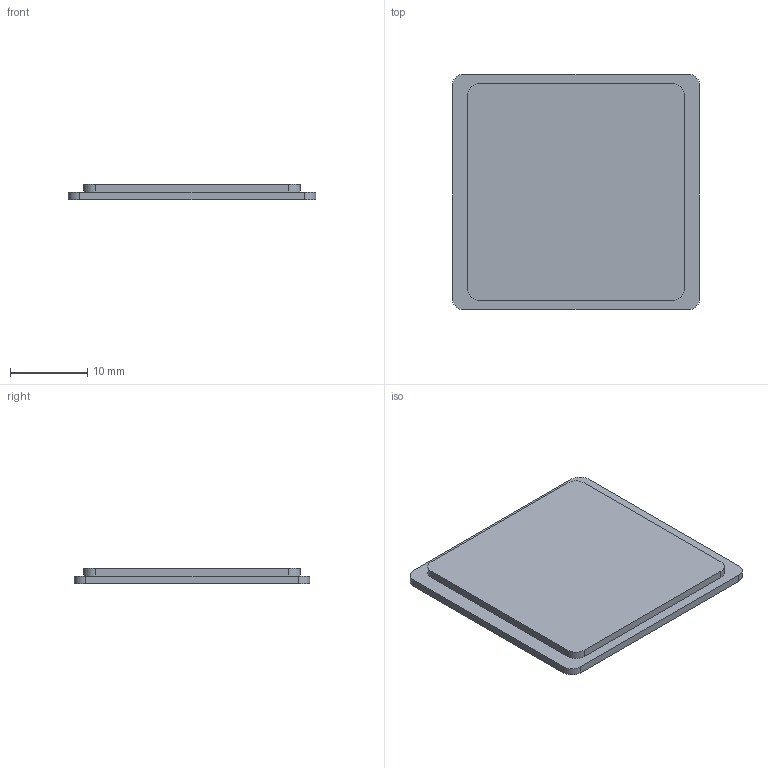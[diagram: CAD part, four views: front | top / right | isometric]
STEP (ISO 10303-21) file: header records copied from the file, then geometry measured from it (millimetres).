
FILE_DESCRIPTION(('FreeCAD Model'),'2;1');
FILE_NAME('/home/malte/3d/freecad/solarpocketlight/cellWindow3.step', '2018-09-22T13:31:40',('Author'),(''), 'Open CASCADE STEP processor 7.2','FreeCAD','Unknown');
FILE_SCHEMA(('AUTOMOTIVE_DESIGN_CC2 { 1 2 10303 214 -1 1 5 4 }'));
Length unit declared in the file: millimetre
Products named in the file (1): Body
Bounding box: 32 x 30.5 x 2 mm (x, y, z)
Volume: 1756.1 mm3; surface area: 2180 mm2
Topology: 1 solids, 1 shells, 19 faces, 48 edges, 32 vertices
Faces by surface type: plane 11, cylinder 8
Entity records: 1271 total; most frequent: CARTESIAN_POINT 292, DIRECTION 184, LINE 112, VECTOR 112, ORIENTED_EDGE 96, PCURVE 96, DEFINITIONAL_REPRESENTATION 96, EDGE_CURVE 48
